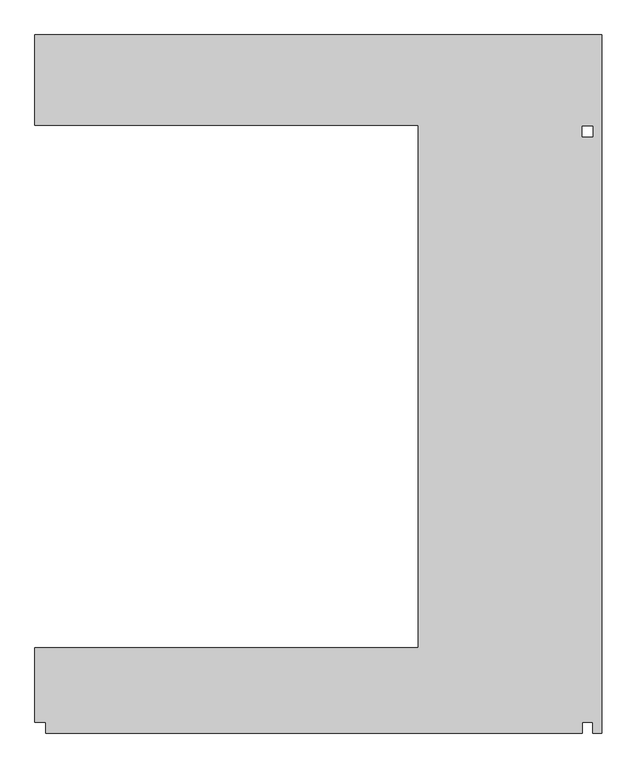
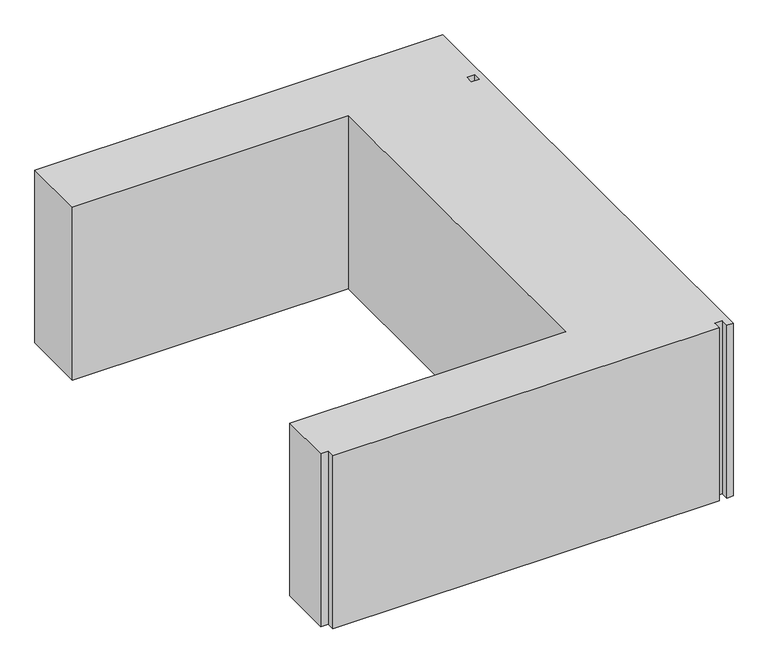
"""IFC4 building model written with IfcOpenShell, lengths in millimetres: proxy geometry."""

import ifcopenshell
import ifcopenshell.guid

model = None  # the IFC model being written
_history = None  # IfcOwnerHistory: only IFC2X3 demands one
_inside = {}  # id of a spatial element -> (the spatial element, [elements in it])
_under = {}  # id of a project, library or spatial element -> (it, [spatial elements below it])
_declared = {}  # id of a project -> (the project, [libraries it declares])
_typed = {}  # id of a type object -> (the type object, [elements of that type])
_made_of = {}  # id of a material, layer set ... -> (it, [elements and type objects made of it])


def new_model(schema):
    """Start an empty IFC model of exactly this schema.

    Asked for "IFC4X3", IfcOpenShell would pick the latest addendum, in which some entities
    have other attributes; the version numbers below select the first issue.
    IFC2X3 requires an IfcOwnerHistory on every rooted entity: one is made here for all.
    """
    global model, _history
    if schema == "IFC4X3":
        model = ifcopenshell.file(schema_version=(4, 3, 0, 0))
    else:
        model = ifcopenshell.file(schema=schema)
    _inside.clear()
    _under.clear()
    _declared.clear()
    _typed.clear()
    _made_of.clear()
    _history = None
    if model.schema == "IFC2X3":
        org = make("IfcOrganization", Name="unknown")
        user = make(
            "IfcPersonAndOrganization",
            ThePerson=make("IfcPerson", FamilyName="unknown"),
            TheOrganization=org,
        )
        app = make(
            "IfcApplication",
            ApplicationDeveloper=org,
            Version="unknown",
            ApplicationFullName="unknown",
            ApplicationIdentifier="unknown",
        )
        _history = make(
            "IfcOwnerHistory",
            OwningUser=user,
            OwningApplication=app,
            ChangeAction="ADDED",
            CreationDate=0,
        )
    return model


def make(cls, **values):
    """One entity of the class cls with the attributes given. An attribute that is None is left unset."""
    return model.create_entity(
        cls, **{name: value for name, value in values.items() if value is not None}
    )


def rooted(cls, **values):
    """An entity with a GlobalId (a new one), such as an element, a storey or a relation."""
    return make(cls, GlobalId=ifcopenshell.guid.new(), OwnerHistory=_history, **values)


def si_unit(unit_type, name, prefix=None):
    """IfcSIUnit, for example si_unit("LENGTHUNIT", "METRE", prefix="MILLI")."""
    return make("IfcSIUnit", UnitType=unit_type, Prefix=prefix, Name=name)


def assignment(units):
    """IfcUnitAssignment: the units of a project."""
    return None if units is None else make("IfcUnitAssignment", Units=units)


def point(xyz):
    """IfcCartesianPoint."""
    return None if xyz is None else make("IfcCartesianPoint", Coordinates=xyz)


def direction(xyz):
    """IfcDirection."""
    return None if xyz is None else make("IfcDirection", DirectionRatios=xyz)


def frame(location, z_axis=None, x_axis=None):
    """IfcAxis2Placement3D, a coordinate frame: its origin and axes. An axis left out is left unset."""
    return make(
        "IfcAxis2Placement3D",
        Location=point(location),
        Axis=direction(z_axis),
        RefDirection=direction(x_axis),
    )


def origin():
    """The frame at (0, 0, 0) with its axes left unset."""
    return frame((0.0, 0.0, 0.0))


def origin_with_axes():
    """The frame at (0, 0, 0) with the z axis (0, 0, 1) and the x axis (1, 0, 0) written out."""
    return frame((0.0, 0.0, 0.0), z_axis=(0.0, 0.0, 1.0), x_axis=(1.0, 0.0, 0.0))


def place(relative_to, where):
    """IfcLocalPlacement: puts the frame where relative to a parent placement (None: the world)."""
    return make(
        "IfcLocalPlacement", PlacementRelTo=relative_to, RelativePlacement=where
    )


def context(
    kind, dimensions, precision=None, world=None, true_north=None, identifier=None
):
    """IfcGeometricRepresentationContext, for example the 3D "Model" context."""
    return make(
        "IfcGeometricRepresentationContext",
        ContextIdentifier=identifier,
        ContextType=kind,
        CoordinateSpaceDimension=dimensions,
        Precision=precision,
        WorldCoordinateSystem=world,
        TrueNorth=true_north,
    )


def project(units=None, contexts=None):
    """IfcProject with its units and contexts."""
    return rooted(
        "IfcProject",
        Name="project",
        RepresentationContexts=contexts,
        UnitsInContext=assignment(units),
    )


def spatial(cls, under=None, at=None, **own):
    """A site, building, storey or space (cls), placed at a placement, below another one or the project."""
    s = rooted(cls, ObjectPlacement=at, **own)
    if under is not None:
        _under.setdefault(under.id(), (under, []))[1].append(s)
    return s


def polyline(points):
    """IfcPolyline through the points."""
    return make("IfcPolyline", Points=[point(p) for p in points])


def outline(outer, holes=None, kind="AREA"):
    """IfcArbitraryClosedProfileDef: a profile drawn as a closed curve; with holes, ...WithVoids."""
    if holes is None:
        return make("IfcArbitraryClosedProfileDef", ProfileType=kind, OuterCurve=outer)
    return make(
        "IfcArbitraryProfileDefWithVoids",
        ProfileType=kind,
        OuterCurve=outer,
        InnerCurves=holes,
    )


def extrude(swept, where, along, depth):
    """IfcExtrudedAreaSolid: the profile swept, set in the frame where, extruded along a direction by depth."""
    return make(
        "IfcExtrudedAreaSolid",
        SweptArea=swept,
        Position=where,
        ExtrudedDirection=direction(along),
        Depth=depth,
    )


def shape(context_of_items, identifier, shape_type, items):
    """IfcShapeRepresentation: the items that make up one representation, for example the "Body"."""
    return make(
        "IfcShapeRepresentation",
        ContextOfItems=context_of_items,
        RepresentationIdentifier=identifier,
        RepresentationType=shape_type,
        Items=items,
    )


def source(mapping_origin, context_of_items, identifier, shape_type, items):
    """IfcRepresentationMap: a shape defined once, which mapped items show again and again."""
    return make(
        "IfcRepresentationMap",
        MappingOrigin=mapping_origin,
        MappedRepresentation=shape(context_of_items, identifier, shape_type, items),
    )


def transform(
    local_origin,
    x_axis=None,
    y_axis=None,
    z_axis=None,
    scale=None,
    scale2=None,
    scale3=None,
    uniform=True,
):
    """IfcCartesianTransformationOperator3D, or its non-uniform kind. x_axis, y_axis, z_axis: its Axis1, 2, 3."""
    if uniform:
        return make(
            "IfcCartesianTransformationOperator3D",
            Axis1=direction(x_axis),
            Axis2=direction(y_axis),
            LocalOrigin=point(local_origin),
            Scale=scale,
            Axis3=direction(z_axis),
        )
    return make(
        "IfcCartesianTransformationOperator3DnonUniform",
        Axis1=direction(x_axis),
        Axis2=direction(y_axis),
        LocalOrigin=point(local_origin),
        Scale=scale,
        Axis3=direction(z_axis),
        Scale2=scale2,
        Scale3=scale3,
    )


def mapped(mapping_source, mapping_target):
    """IfcMappedItem: shows the shape of a source again, moved by a transform."""
    return make(
        "IfcMappedItem", MappingSource=mapping_source, MappingTarget=mapping_target
    )


def made_of(thing, what):
    """Note that an element or type object is made of a material, layer set ...; save() writes the relation."""
    if what is not None:
        _made_of.setdefault(what.id(), (what, []))[1].append(thing)
    return thing


def element(
    cls,
    number,
    at=None,
    inside=None,
    cuts=None,
    type_object=None,
    material=None,
    context=None,
    identifier="Body",
    shape_type=None,
    held_by="IfcProductDefinitionShape",
    body=None,
    shapes=None,
    **own,
):
    """One element of the class cls, such as IfcWall. Its Tag is "e" and its number.

    at: its placement. inside: the storey or other place that contains it. cuts: it is an
    opening in that element (IfcRelVoidsElement). A single representation is given by context,
    identifier, shape_type and body (its items); several are given by shapes. held_by: the class
    of the entity that holds the representations. save() writes the other relations.
    """
    e = rooted(cls, Tag="e%d" % number, ObjectPlacement=at, **own)
    if body is not None:
        shapes = [shape(context, identifier, shape_type, body)]
    if shapes is not None:
        e.Representation = make(held_by, Representations=shapes)
    if inside is not None:
        _inside.setdefault(inside.id(), (inside, []))[1].append(e)
    if cuts is not None:
        rooted(
            "IfcRelVoidsElement", RelatingBuildingElement=cuts, RelatedOpeningElement=e
        )
    if type_object is not None:
        _typed.setdefault(type_object.id(), (type_object, []))[1].append(e)
    return made_of(e, material)


def aggregate(whole, parts):
    """IfcRelAggregates: a whole, such as a stair, and the parts it consists of."""
    return rooted("IfcRelAggregates", RelatingObject=whole, RelatedObjects=parts)


def save(model, path):
    """Write the relations noted so far, then the file.

    IfcRelAggregates (storeys below a building ...), IfcRelContainedInSpatialStructure (elements
    in a storey), IfcRelDefinesByType, IfcRelAssociatesMaterial and IfcRelDeclares: one each for
    every whole, place, type object, material and project.
    """
    for whole, parts in _under.values():
        aggregate(whole, parts)
    for where, things in _inside.values():
        rooted(
            "IfcRelContainedInSpatialStructure",
            RelatedElements=things,
            RelatingStructure=where,
        )
    for kind, things in _typed.values():
        rooted("IfcRelDefinesByType", RelatedObjects=things, RelatingType=kind)
    for what, things in _made_of.values():
        rooted("IfcRelAssociatesMaterial", RelatedObjects=things, RelatingMaterial=what)
    for by, libraries in _declared.values():
        rooted("IfcRelDeclares", RelatingContext=by, RelatedDefinitions=libraries)
    model.write(path)


def generic_models_48ca2175(model_context):
    return source(origin(), model_context, "Body", "SweptSolid", [
        extrude(outline(polyline([(-96249.873809, -43965.0027343), (-96249.873809, -42255.0027343), (-85526.873809, -42255.0027343), (-85526.873809, -55465.0173441), (-85689.873809, -55465.0173441), (-85689.873809, -55265.0173441), (-85889.873809, -55265.0173441), (-85889.873809, -55465.0173441), (-96048.167461, -55465.0173441), (-96048.167461, -55265.0173441), (-96249.873809, -55265.0173441), (-96249.873809, -53855.0027343), (-88999.873809, -53855.0027343), (-88999.873809, -43965.0027343), (-96249.873809, -43965.0027343)]), holes=[polyline([(-85889.873809, -44185.0027343), (-85689.873809, -44185.0027343), (-85689.873809, -43985.0027343), (-85889.873809, -43985.0027343), (-85889.873809, -44185.0027343)])]), origin_with_axes(), (0.0, 0.0, 1.0), 4800.0),
    ])


if __name__ == "__main__":
    model = new_model("IFC4")
    model_context = context("Model", 3, world=origin())
    ifc_project = project(units=[si_unit("LENGTHUNIT", "METRE", prefix="MILLI")], contexts=[model_context])
    site = spatial("IfcSite", under=ifc_project)
    building = spatial("IfcBuilding", under=site)
    placement = place(None, origin())
    generic_models_shape = generic_models_48ca2175(model_context)
    element("IfcBuildingElementProxy", 1, Name="Generic Models", at=placement, inside=building, context=model_context, shape_type="MappedRepresentation", body=[
        mapped(generic_models_shape, transform((0.0, 0.0, 0.0), x_axis=(1.0, 0.0, 0.0), y_axis=(0.0, 1.0, 0.0), z_axis=(0.0, 0.0, 1.0))),
    ])
    save(model, "model.ifc")
